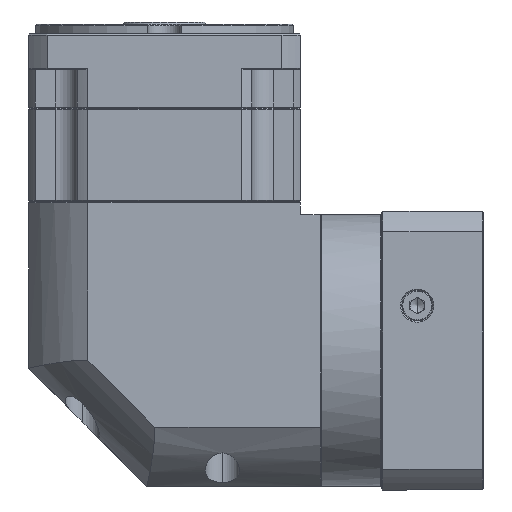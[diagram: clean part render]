
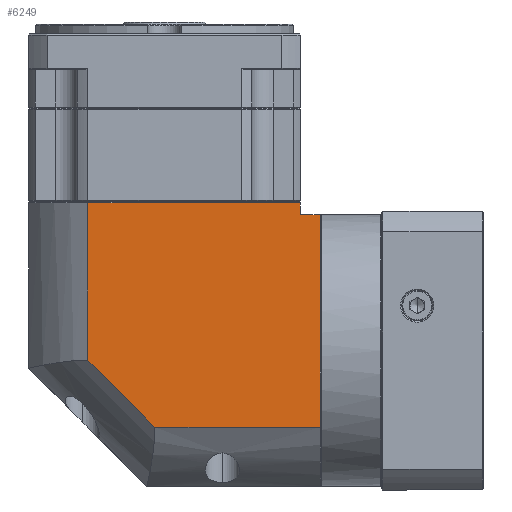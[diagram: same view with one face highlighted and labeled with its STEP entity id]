
A CAD part, left-side view. The second image highlights one B-rep face of the part: STEP entity #6249.
In plain terms, the highlighted planar face has unit normal (-1, 0, 0).
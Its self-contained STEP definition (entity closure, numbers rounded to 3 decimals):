
#4047 = ORIENTED_EDGE ( 'NONE', *, *, #86535, .F. ) ;
#5955 = VECTOR ( 'NONE', #167355, 1000. ) ;
#6249 = ADVANCED_FACE ( 'NONE', ( #155577 ), #130978, .F. ) ;
#6779 = ORIENTED_EDGE ( 'NONE', *, *, #102681, .F. ) ;
#13290 = CARTESIAN_POINT ( 'NONE',  ( -239.768, -77.618, 113.597 ) ) ;
#17676 = EDGE_CURVE ( 'NONE', #20104, #48968, #139950, .T. ) ;
#20104 = VERTEX_POINT ( 'NONE', #21279 ) ;
#21279 = CARTESIAN_POINT ( 'NONE',  ( -239.768, -86.018, 113.597 ) ) ;
#21346 = CARTESIAN_POINT ( 'NONE',  ( -239.768, 12.282, 118.597 ) ) ;
#27780 = DIRECTION ( 'NONE',  ( 1., 0., 0. ) ) ;
#30522 = DIRECTION ( 'NONE',  ( 0., 0., 1. ) ) ;
#34179 = VERTEX_POINT ( 'NONE', #160894 ) ;
#34219 = DIRECTION ( 'NONE',  ( 0., 1., 0. ) ) ;
#34769 = CARTESIAN_POINT ( 'NONE',  ( -239.768, 37.382, 23.697 ) ) ;
#35983 = DIRECTION ( 'NONE',  ( 0., -1., 0. ) ) ;
#39467 = DIRECTION ( 'NONE',  ( 0., 1., 0. ) ) ;
#46391 = VERTEX_POINT ( 'NONE', #21346 ) ;
#46846 = AXIS2_PLACEMENT_3D ( 'NONE', #105483, #27780, #118495 ) ;
#48968 = VERTEX_POINT ( 'NONE', #58569 ) ;
#50791 = EDGE_CURVE ( 'NONE', #34179, #97631, #81067, .T. ) ;
#52210 = ORIENTED_EDGE ( 'NONE', *, *, #17676, .F. ) ;
#53125 = EDGE_CURVE ( 'NONE', #20104, #147503, #55465, .T. ) ;
#55465 = LINE ( 'NONE', #13290, #89946 ) ;
#58569 = CARTESIAN_POINT ( 'NONE',  ( -239.768, -86.018, 23.697 ) ) ;
#59001 = CARTESIAN_POINT ( 'NONE',  ( -239.768, -16.056, 23.697 ) ) ;
#60922 = VECTOR ( 'NONE', #35983, 1000. ) ;
#69092 = EDGE_CURVE ( 'NONE', #46391, #117392, #160243, .T. ) ;
#72635 = DIRECTION ( 'NONE',  ( 0., 0.707, 0.707 ) ) ;
#75907 = EDGE_CURVE ( 'NONE', #147503, #117392, #84104, .T. ) ;
#81067 = LINE ( 'NONE', #59001, #111543 ) ;
#83837 = VECTOR ( 'NONE', #34219, 1000. ) ;
#84104 = LINE ( 'NONE', #108238, #153079 ) ;
#86535 = EDGE_CURVE ( 'NONE', #97631, #46391, #108316, .T. ) ;
#89714 = CARTESIAN_POINT ( 'NONE',  ( -239.768, -86.018, 125.097 ) ) ;
#89946 = VECTOR ( 'NONE', #39467, 1000. ) ;
#97631 = VERTEX_POINT ( 'NONE', #163907 ) ;
#102681 = EDGE_CURVE ( 'NONE', #48968, #34179, #152807, .T. ) ;
#105087 = ORIENTED_EDGE ( 'NONE', *, *, #75907, .T. ) ;
#105483 = CARTESIAN_POINT ( 'NONE',  ( -239.768, 37.382, 125.097 ) ) ;
#108238 = CARTESIAN_POINT ( 'NONE',  ( -239.768, -77.618, -1.403 ) ) ;
#108316 = LINE ( 'NONE', #113534, #142815 ) ;
#111524 = ORIENTED_EDGE ( 'NONE', *, *, #53125, .T. ) ;
#111543 = VECTOR ( 'NONE', #72635, 1000. ) ;
#113406 = ORIENTED_EDGE ( 'NONE', *, *, #50791, .F. ) ;
#113534 = CARTESIAN_POINT ( 'NONE',  ( -239.768, 12.282, 125.097 ) ) ;
#117392 = VERTEX_POINT ( 'NONE', #156564 ) ;
#118495 = DIRECTION ( 'NONE',  ( 0., 1., 0. ) ) ;
#126678 = CARTESIAN_POINT ( 'NONE',  ( -239.768, 37.382, 118.597 ) ) ;
#130978 = PLANE ( 'NONE',  #46846 ) ;
#139950 = LINE ( 'NONE', #89714, #5955 ) ;
#142815 = VECTOR ( 'NONE', #153144, 1000. ) ;
#144361 = CARTESIAN_POINT ( 'NONE',  ( -239.768, -77.618, 113.597 ) ) ;
#147503 = VERTEX_POINT ( 'NONE', #144361 ) ;
#152807 = LINE ( 'NONE', #34769, #83837 ) ;
#153079 = VECTOR ( 'NONE', #30522, 1000. ) ;
#153144 = DIRECTION ( 'NONE',  ( 0., 0., 1. ) ) ;
#155577 = FACE_OUTER_BOUND ( 'NONE', #163374, .T. ) ;
#156564 = CARTESIAN_POINT ( 'NONE',  ( -239.768, -77.618, 118.597 ) ) ;
#160243 = LINE ( 'NONE', #126678, #60922 ) ;
#160894 = CARTESIAN_POINT ( 'NONE',  ( -239.768, -16.056, 23.697 ) ) ;
#163374 = EDGE_LOOP ( 'NONE', ( #4047, #113406, #6779, #52210, #111524, #105087, #166592 ) ) ;
#163907 = CARTESIAN_POINT ( 'NONE',  ( -239.768, 12.282, 52.035 ) ) ;
#166592 = ORIENTED_EDGE ( 'NONE', *, *, #69092, .F. ) ;
#167355 = DIRECTION ( 'NONE',  ( 0., 0., -1. ) ) ;
